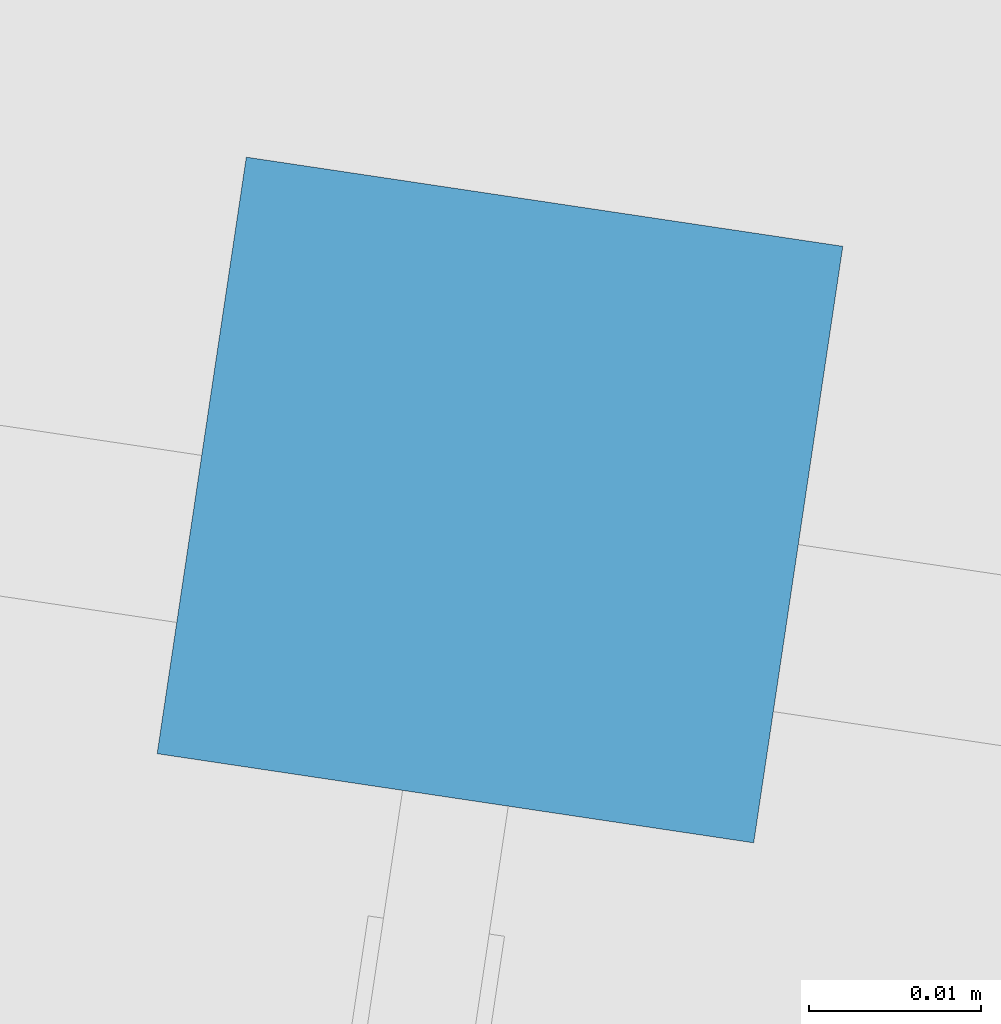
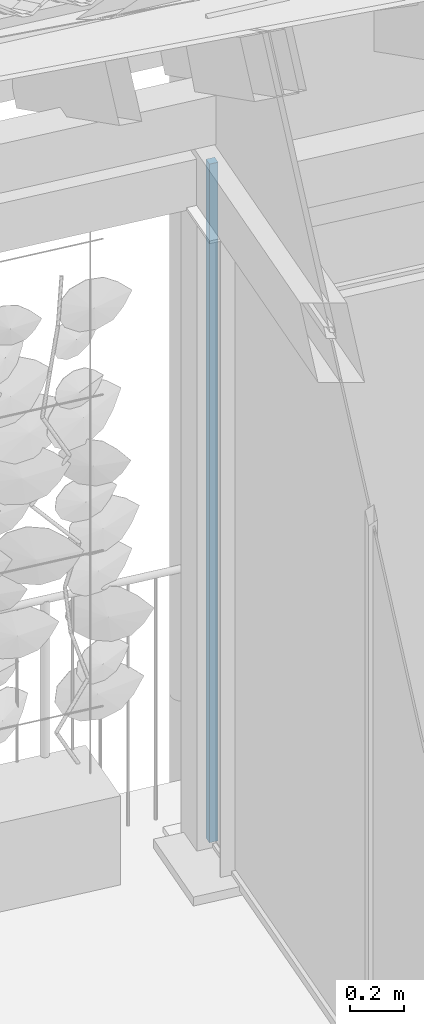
# One storey, part 41 of 131: 1 member.
"""IFC4 building model written with IfcOpenShell, lengths in metres."""

from ifc_helpers import new_model, si_unit, direction, frame, origin_with_axes, place, context, subcontext, project, spatial, rectangle, extrude, material, material_profile, profile_set, profile_usage, type_object, element, save


model = new_model("IFC4")

# Units and contexts
model_context = context("Model", 3, precision=1e-05, world=origin_with_axes(), true_north=direction((0.0, 1.0)))
body_context = subcontext(model_context, "Body", "Model", "MODEL_VIEW")
ifc_project = project(units=[si_unit("VOLUMEUNIT", "CUBIC_METRE"), si_unit("LENGTHUNIT", "METRE"), si_unit("AREAUNIT", "SQUARE_METRE")], contexts=[model_context])

# Site, building, storey
site_placement = place(None, origin_with_axes())
site = spatial("IfcSite", under=ifc_project, at=site_placement, Name="Lares · Rua das Mercês · artigo 4771")
building_placement = place(site_placement, frame((15.0, 9.7, 14.65), z_axis=(0.0, 0.0, 1.0), x_axis=(0.989015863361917, -0.147809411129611, 0.0)))
building = spatial("IfcBuilding", under=site, at=building_placement, Name="Casa Sobreposta")
storey_placement = place(building_placement, origin_with_axes())
storey = spatial("IfcBuildingStorey", under=building, at=storey_placement, Name="00 · Habitação e estacionamento", Elevation=14.65)

# Member
ifc_material = material(Name="Aço pintado / Stahl lackiert", Category="steel")
ifc_material_profile = material_profile(ifc_material, rectangle(XDim=0.035, YDim=0.035))
ifc_profile_set = profile_set([ifc_material_profile], Name="R0.035")
ifc_profile_usage = profile_usage(ifc_profile_set)
member_type = type_object("IfcMemberType", Name="R0.035 / steel", PredefinedType="NOTDEFINED", material=ifc_profile_set)
member_placement = place(storey_placement, frame((0.0, 6.4, 0.0), z_axis=(0.0, 0.0, 1.0), x_axis=(1.0, 0.0, 0.0)))
element("IfcMember", 1, at=member_placement, inside=storey, type_object=member_type, material=ifc_profile_usage, Name="Fachada poente integralmente envidraçada · módulo 4 · montante", context=body_context, shape_type="SweptSolid", body=[
    extrude(rectangle(XDim=0.035, YDim=0.035), origin_with_axes(), (0.0, 0.0, 1.0), 3.05),
])

save(model, "model.ifc")
